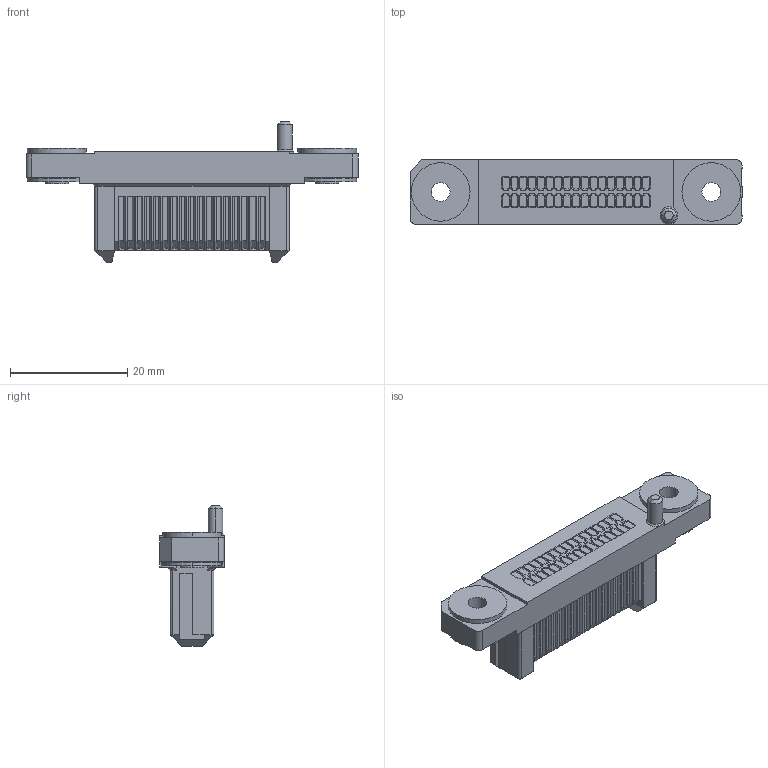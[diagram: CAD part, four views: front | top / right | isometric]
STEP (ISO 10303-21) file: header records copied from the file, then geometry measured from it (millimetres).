
FILE_DESCRIPTION(('CoCreate Modeling STEP Export'),'2;1');
FILE_NAME('P3C789_FAS01-034.stp','2017-07-28T14:54:07',(''),(''),'CoCreate Modeling STEP processor for AP214 (Solid Model)','CoCreate Modeling 17.0B 09-Oct-2010 (C) Parametric Technology GmbH','');
FILE_SCHEMA(('AUTOMOTIVE_DESIGN { 1 0 10303 214 1 1 1 1 }'));
Length unit declared in the file: millimetre
Products named in the file (2): FAS01-034
Assembly tree (1 placements, depth 2):
  FAS01-034
    FAS01-034
Bounding box: 56.7 x 11 x 24 mm (x, y, z)
Volume: 5575.3 mm3; surface area: 3789.6 mm2
Topology: 1 solids, 1 shells, 982 faces, 2512 edges, 1576 vertices
Faces by surface type: plane 940, cylinder 34, cone 8
Entity records: 28674 total; most frequent: CARTESIAN_POINT 5042, ORIENTED_EDGE 5024, DIRECTION 4503, EDGE_CURVE 2512, VECTOR 2429, LINE 2429, VERTEX_POINT 1576, AXIS2_PLACEMENT_3D 1037
